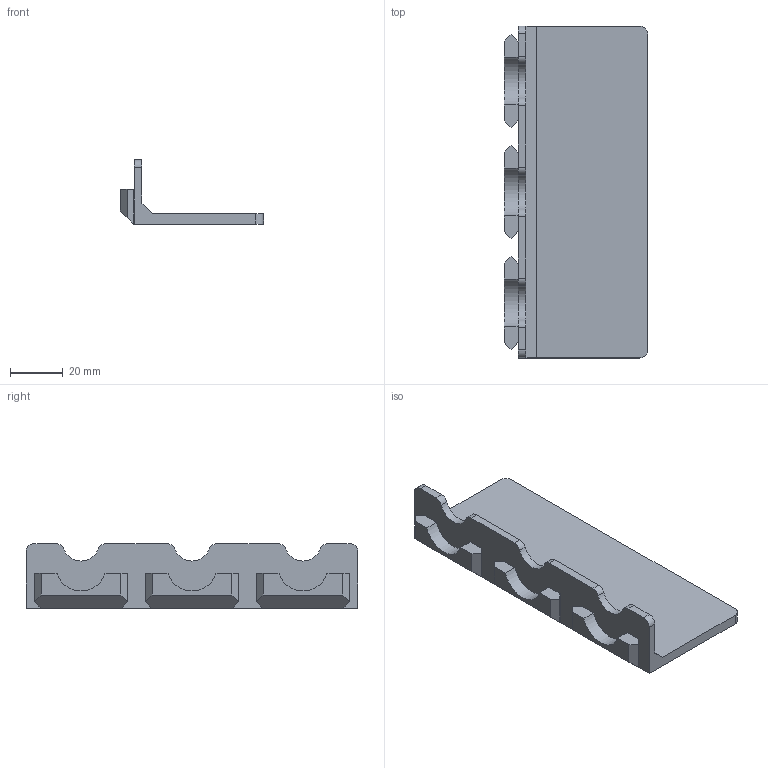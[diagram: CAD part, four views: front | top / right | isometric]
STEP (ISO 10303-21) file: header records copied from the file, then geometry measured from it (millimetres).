
FILE_DESCRIPTION(/* description */ ('','CAx-IF Rec.Pracs.---Representation and Presentation of Product Manufacturing Information (PMI)---4.0---2014-10-13'),/* implementation_level */ '2;1');
FILE_NAME(/* name */ 'Goews 3x Hanger 1x Shelf.step',/* time_stamp */ '2024-11-28T10:15:40-05:00',/* author */ (''),/* organization */ (''),/* preprocessor_version */ 'ST-DEVELOPER v20',/* originating_system */ 'Autodesk Translation Framework v13.20.0.188',/* authorisation */ '');
FILE_SCHEMA (('AP242_MANAGED_MODEL_BASED_3D_ENGINEERING_MIM_LF { 1 0 10303 442 1 1 4 }'));
Length unit declared in the file: millimetre
Products named in the file (1): Goews 3x Hanger 1x Shelf
Bounding box: 54.15 x 125.6 x 24.39 mm (x, y, z)
Volume: 36662 mm3; surface area: 19567.1 mm2
Topology: 1 solids, 1 shells, 61 faces, 162 edges, 106 vertices
Faces by surface type: plane 45, cylinder 16
Entity records: 1913 total; most frequent: CARTESIAN_POINT 330, ORIENTED_EDGE 324, DIRECTION 318, EDGE_CURVE 162, LINE 130, VECTOR 130, VERTEX_POINT 106, AXIS2_PLACEMENT_3D 94
